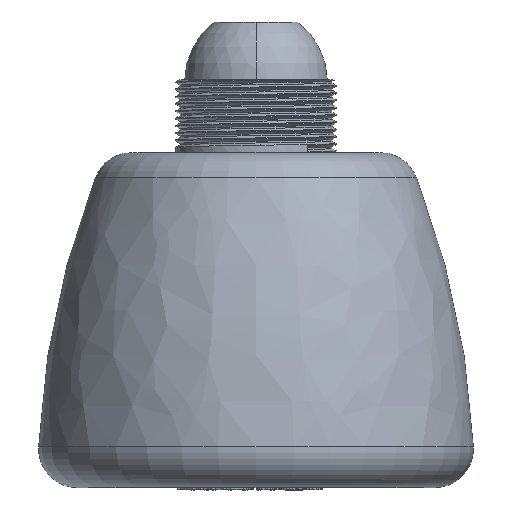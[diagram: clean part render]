
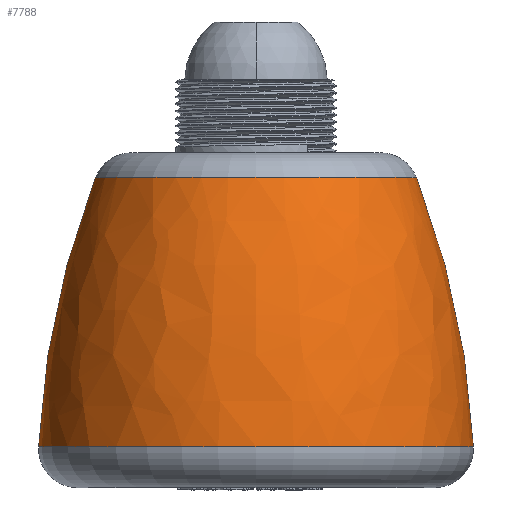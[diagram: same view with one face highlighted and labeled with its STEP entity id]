
A CAD part, top view. The second image highlights one B-rep face of the part: STEP entity #7788.
In plain terms, the highlighted free-form (B-spline) face has degree [3, 3] with [7, 4] control points.
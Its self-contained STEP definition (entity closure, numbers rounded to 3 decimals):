
#1221=CARTESIAN_POINT('',(0.,63.887,0.));
#1222=DIRECTION('',(0.,-1.,0.));
#1223=DIRECTION('',(1.,0.,0.));
#1224=AXIS2_PLACEMENT_3D('',#1221,#1222,#1223);
#1226=CARTESIAN_POINT('',(-132.036,0.,0.));
#1227=DIRECTION('',(0.,0.,-1.));
#1228=DIRECTION('',(0.933,0.361,0.));
#1229=AXIS2_PLACEMENT_3D('',#1226,#1227,#1228);
#1231=CARTESIAN_POINT('',(0.,8.379,0.));
#1232=DIRECTION('',(0.,-1.,0.));
#1233=DIRECTION('',(1.,0.,0.));
#1234=AXIS2_PLACEMENT_3D('',#1231,#1232,#1233);
#1236=CARTESIAN_POINT('',(132.036,0.,0.));
#1237=DIRECTION('',(0.,0.,1.));
#1238=DIRECTION('',(-0.933,0.361,0.));
#1239=AXIS2_PLACEMENT_3D('',#1236,#1237,#1238);
#5744=CARTESIAN_POINT('',(-33.071,63.887,0.));
#5745=CARTESIAN_POINT('',(33.071,63.887,0.));
#5746=VERTEX_POINT('',#5744);
#5747=VERTEX_POINT('',#5745);
#5756=CARTESIAN_POINT('',(-44.802,8.379,0.));
#5757=CARTESIAN_POINT('',(44.802,8.379,0.));
#5758=VERTEX_POINT('',#5756);
#5759=VERTEX_POINT('',#5757);
#7750=CARTESIAN_POINT('',(32.592,64.948,-2.05));
#7751=CARTESIAN_POINT('',(39.858,46.486,-2.508));
#7752=CARTESIAN_POINT('',(43.953,27.069,-2.765));
#7753=CARTESIAN_POINT('',(44.763,7.24,-2.816));
#7754=CARTESIAN_POINT('',(33.853,64.948,18.006));
#7755=CARTESIAN_POINT('',(41.401,46.486,22.021));
#7756=CARTESIAN_POINT('',(45.655,27.069,24.284));
#7757=CARTESIAN_POINT('',(46.497,7.24,24.731));
#7758=CARTESIAN_POINT('',(20.096,64.948,32.656));
#7759=CARTESIAN_POINT('',(24.577,46.486,39.937));
#7760=CARTESIAN_POINT('',(27.102,27.069,44.04));
#7761=CARTESIAN_POINT('',(27.602,7.24,44.852));
#7762=CARTESIAN_POINT('',(0.,64.948,
32.656));
#7763=CARTESIAN_POINT('',(0.,46.486,39.937));
#7764=CARTESIAN_POINT('',(0.,27.069,44.04));
#7765=CARTESIAN_POINT('',(0.,7.24,
44.852));
#7766=CARTESIAN_POINT('',(-20.096,64.948,32.656));
#7767=CARTESIAN_POINT('',(-24.577,46.486,39.937));
#7768=CARTESIAN_POINT('',(-27.102,27.069,44.04));
#7769=CARTESIAN_POINT('',(-27.602,7.24,44.852));
#7770=CARTESIAN_POINT('',(-33.853,64.948,18.006));
#7771=CARTESIAN_POINT('',(-41.401,46.486,22.021));
#7772=CARTESIAN_POINT('',(-45.655,27.069,24.284));
#7773=CARTESIAN_POINT('',(-46.497,7.24,24.731));
#7774=CARTESIAN_POINT('',(-32.592,64.948,
-2.05));
#7775=CARTESIAN_POINT('',(-39.858,46.486,
-2.508));
#7776=CARTESIAN_POINT('',(-43.953,27.069,
-2.765));
#7777=CARTESIAN_POINT('',(-44.763,7.24,
-2.816));
#7778=(BOUNDED_SURFACE()B_SPLINE_SURFACE(3,3,((#7750,#7751,#7752,#7753),(#7754,
#7755,#7756,#7757),(#7758,#7759,#7760,#7761),(#7762,#7763,#7764,#7765),(#7766,
#7767,#7768,#7769),(#7770,#7771,#7772,#7773),(#7774,#7775,#7776,#7777)),
.UNSPECIFIED.,.F.,.F.,.F.)B_SPLINE_SURFACE_WITH_KNOTS((4,3,4),(4,4),(0.,1.,
2.),(0.,1.),.UNSPECIFIED.)GEOMETRIC_REPRESENTATION_ITEM()RATIONAL_B_SPLINE_SURFACE(((1.196,1.184,1.184,1.196),(
0.944,0.935,0.935,0.944),(
0.944,0.935,0.935,0.944),(
1.196,1.184,1.184,1.196),(
0.944,0.935,0.935,0.944),(
0.944,0.935,0.935,0.944),(
1.196,1.184,1.184,1.196)))REPRESENTATION_ITEM('')SURFACE());
#7780=ORIENTED_EDGE('',*,*,#7779,.F.);
#7782=ORIENTED_EDGE('',*,*,#7781,.T.);
#7783=ORIENTED_EDGE('',*,*,#7744,.T.);
#7785=ORIENTED_EDGE('',*,*,#7784,.F.);
#7786=EDGE_LOOP('',(#7780,#7782,#7783,#7785));
#7787=FACE_OUTER_BOUND('',#7786,.F.);
#7788=ADVANCED_FACE('',(#7787),#7778,.T.);
#1225=CIRCLE('',#1224,33.071);
#1230=CIRCLE('',#1229,177.036);
#1235=CIRCLE('',#1234,44.802);
#1240=CIRCLE('',#1239,177.036);
#7744=EDGE_CURVE('',#5759,#5758,#1235,.T.);
#7779=EDGE_CURVE('',#5747,#5746,#1225,.T.);
#7781=EDGE_CURVE('',#5747,#5759,#1230,.T.);
#7784=EDGE_CURVE('',#5746,#5758,#1240,.T.);
